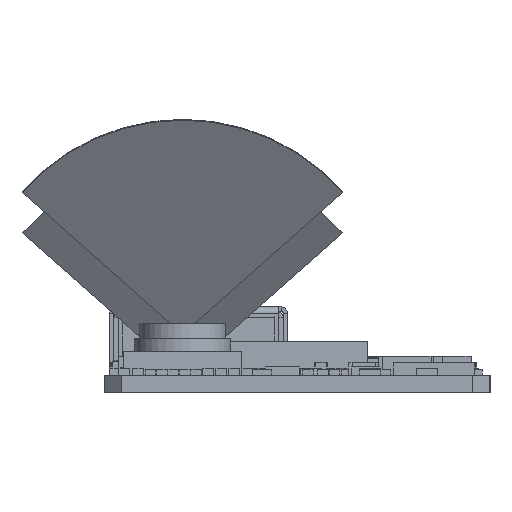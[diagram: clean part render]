
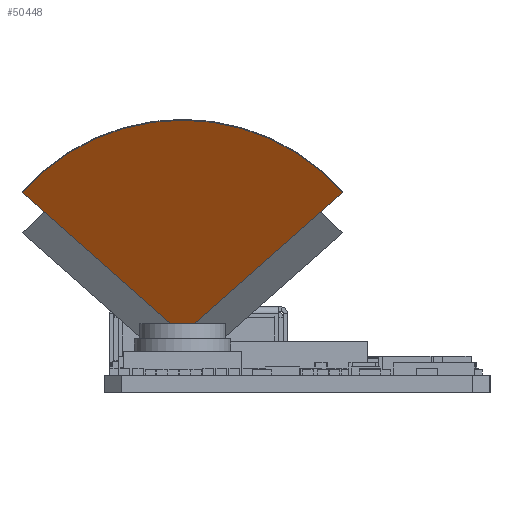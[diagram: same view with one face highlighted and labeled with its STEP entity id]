
A CAD part, left-side view. The second image highlights one B-rep face of the part: STEP entity #50448.
In plain terms, the highlighted planar face has unit normal (-0.848, 0, -0.53) as drawn and (0, 0.848, -0.53) by its records, which use the part's own axes.
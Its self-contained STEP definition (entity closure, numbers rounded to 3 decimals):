
#2777 = CARTESIAN_POINT ( 'NONE',  ( 5.562, 5.502, 8.805 ) ) ;
#4356 = DIRECTION ( 'NONE',  ( -0.692, 0.383, 0.612 ) ) ;
#4831 = VERTEX_POINT ( 'NONE', #40953 ) ;
#5335 = EDGE_CURVE ( 'NONE', #99259, #126621, #107612, .T. ) ;
#7392 = FACE_OUTER_BOUND ( 'NONE', #35177, .T. ) ;
#7544 = EDGE_CURVE ( 'NONE', #4831, #99259, #35028, .T. ) ;
#12973 = LINE ( 'NONE', #59794, #108108 ) ;
#16772 = LINE ( 'NONE', #136941, #108088 ) ;
#17497 = DIRECTION ( 'NONE',  ( 1., 0., 0. ) ) ;
#17542 = ORIENTED_EDGE ( 'NONE', *, *, #130440, .F. ) ;
#23245 = CARTESIAN_POINT ( 'NONE',  ( -0.057, 0.031, 0.05 ) ) ;
#24253 = CARTESIAN_POINT ( 'NONE',  ( 0., 0., 0. ) ) ;
#28958 = CARTESIAN_POINT ( 'NONE',  ( -7.49, 0.031, 0.05 ) ) ;
#33076 = CARTESIAN_POINT ( 'NONE',  ( 0., 6.249, 10. ) ) ;
#35028 =( BOUNDED_CURVE ( )  B_SPLINE_CURVE ( 3, ( #110677, #2777, #109279, #33076 ),
 .UNSPECIFIED., .F., .T. ) 
 B_SPLINE_CURVE_WITH_KNOTS ( ( 4, 4 ),
 ( 5.437, 6.283 ),
 .UNSPECIFIED. ) 
 CURVE ( )  GEOMETRIC_REPRESENTATION_ITEM ( )  RATIONAL_B_SPLINE_CURVE ( ( 1., 0.941, 0.941, 1. ) ) 
 REPRESENTATION_ITEM ( '' )  );
#35177 = EDGE_LOOP ( 'NONE', ( #107888, #17542, #38212, #46252, #50872 ) ) ;
#38212 = ORIENTED_EDGE ( 'NONE', *, *, #125812, .F. ) ;
#40953 = CARTESIAN_POINT ( 'NONE',  ( 7.49, 4.141, 6.626 ) ) ;
#43641 = CARTESIAN_POINT ( 'NONE',  ( -5.562, 5.502, 8.805 ) ) ;
#46252 = ORIENTED_EDGE ( 'NONE', *, *, #70393, .T. ) ;
#50448 = ADVANCED_FACE ( 'NONE', ( #7392 ), #72974, .F. ) ;
#50872 = ORIENTED_EDGE ( 'NONE', *, *, #5335, .F. ) ;
#59794 = CARTESIAN_POINT ( 'NONE',  ( 0., 0., 0. ) ) ;
#64531 = CARTESIAN_POINT ( 'NONE',  ( -7.49, 4.141, 6.626 ) ) ;
#70393 = EDGE_CURVE ( 'NONE', #100067, #126621, #12973, .T. ) ;
#72974 = PLANE ( 'NONE',  #82173 ) ;
#73688 = DIRECTION ( 'NONE',  ( 0., -0.53, -0.848 ) ) ;
#82173 = AXIS2_PLACEMENT_3D ( 'NONE', #28958, #116731, #73688 ) ;
#95197 = VERTEX_POINT ( 'NONE', #133701 ) ;
#95317 = CARTESIAN_POINT ( 'NONE',  ( 0., 6.249, 10. ) ) ;
#96799 = CARTESIAN_POINT ( 'NONE',  ( -2.909, 6.249, 10. ) ) ;
#99259 = VERTEX_POINT ( 'NONE', #95317 ) ;
#100067 = VERTEX_POINT ( 'NONE', #23245 ) ;
#107612 =( BOUNDED_CURVE ( )  B_SPLINE_CURVE ( 3, ( #119120, #96799, #43641, #64531 ),
 .UNSPECIFIED., .F., .T. ) 
 B_SPLINE_CURVE_WITH_KNOTS ( ( 4, 4 ),
 ( 0., 0.846 ),
 .UNSPECIFIED. ) 
 CURVE ( )  GEOMETRIC_REPRESENTATION_ITEM ( )  RATIONAL_B_SPLINE_CURVE ( ( 1., 0.941, 0.941, 1. ) ) 
 REPRESENTATION_ITEM ( '' )  );
#107888 = ORIENTED_EDGE ( 'NONE', *, *, #7544, .F. ) ;
#108088 = VECTOR ( 'NONE', #17497, 1000. ) ;
#108108 = VECTOR ( 'NONE', #4356, 1000. ) ;
#109279 = CARTESIAN_POINT ( 'NONE',  ( 2.909, 6.249, 10. ) ) ;
#110677 = CARTESIAN_POINT ( 'NONE',  ( 7.49, 4.141, 6.626 ) ) ;
#111341 = LINE ( 'NONE', #24253, #133199 ) ;
#113980 = CARTESIAN_POINT ( 'NONE',  ( -7.49, 4.141, 6.626 ) ) ;
#116731 = DIRECTION ( 'NONE',  ( 0., -0.848, 0.53 ) ) ;
#119120 = CARTESIAN_POINT ( 'NONE',  ( 0., 6.249, 10. ) ) ;
#123559 = DIRECTION ( 'NONE',  ( 0.692, 0.383, 0.612 ) ) ;
#125812 = EDGE_CURVE ( 'NONE', #100067, #95197, #16772, .T. ) ;
#126621 = VERTEX_POINT ( 'NONE', #113980 ) ;
#130440 = EDGE_CURVE ( 'NONE', #95197, #4831, #111341, .T. ) ;
#133199 = VECTOR ( 'NONE', #123559, 1000. ) ;
#133701 = CARTESIAN_POINT ( 'NONE',  ( 0.057, 0.031, 0.05 ) ) ;
#136941 = CARTESIAN_POINT ( 'NONE',  ( -7.49, 0.031, 0.05 ) ) ;
